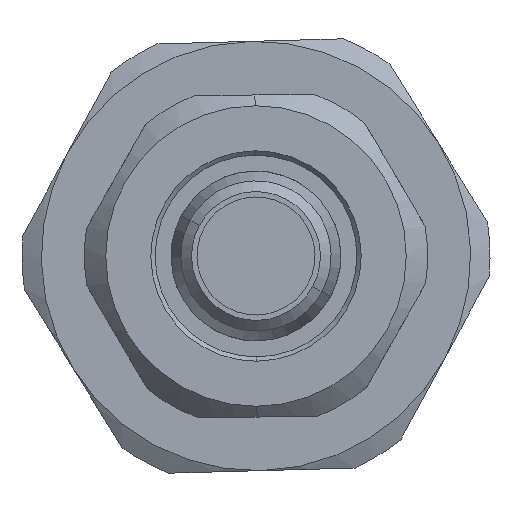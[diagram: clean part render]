
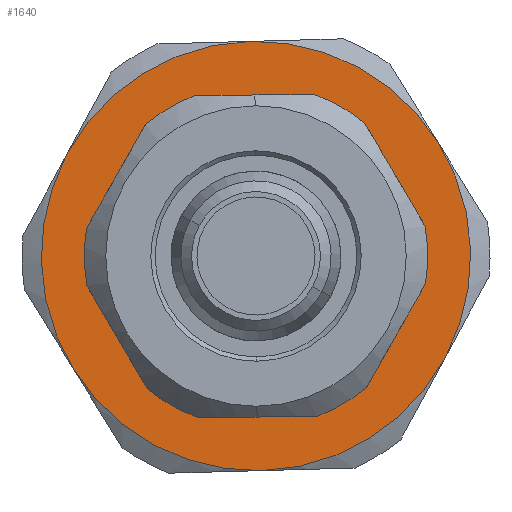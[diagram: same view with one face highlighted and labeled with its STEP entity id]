
A CAD part, left-side view. The second image highlights one B-rep face of the part: STEP entity #1640.
In plain terms, the highlighted planar face has unit normal (-1, 0, 0) as drawn and (1, 0, 0) by its records, which use the part's own axes.
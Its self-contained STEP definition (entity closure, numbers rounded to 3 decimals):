
#3 = CARTESIAN_POINT ( 'NONE',  ( 10., 0., 0. ) ) ;
#14 = DIRECTION ( 'NONE',  ( -1., 0., 0. ) ) ;
#22 = DIRECTION ( 'NONE',  ( 0., 0., 1. ) ) ;
#26 = DIRECTION ( 'NONE',  ( -1., 0., 0. ) ) ;
#35 = DIRECTION ( 'NONE',  ( 0., 0., 1. ) ) ;
#40 = CARTESIAN_POINT ( 'NONE',  ( 10., 0., 0. ) ) ;
#307 = CARTESIAN_POINT ( 'NONE',  ( 10., 0., 0. ) ) ;
#354 = DIRECTION ( 'NONE',  ( 0., 0., 1. ) ) ;
#362 = DIRECTION ( 'NONE',  ( -1., 0., 0. ) ) ;
#534 = EDGE_CURVE ( 'NONE', #1338, #1297, #3443, .T. ) ;
#720 = EDGE_CURVE ( 'NONE', #2014, #2472, #3775, .T. ) ;
#739 = EDGE_CURVE ( 'NONE', #1986, #2014, #3763, .T. ) ;
#741 = EDGE_CURVE ( 'NONE', #1297, #1338, #3884, .T. ) ;
#1297 = VERTEX_POINT ( 'NONE', #5441 ) ;
#1312 = ORIENTED_EDGE ( 'NONE', *, *, #1779, .F. ) ;
#1338 = VERTEX_POINT ( 'NONE', #5418 ) ;
#1348 = ORIENTED_EDGE ( 'NONE', *, *, #1800, .F. ) ;
#1349 = ORIENTED_EDGE ( 'NONE', *, *, #720, .F. ) ;
#1354 = ORIENTED_EDGE ( 'NONE', *, *, #1803, .F. ) ;
#1357 = ORIENTED_EDGE ( 'NONE', *, *, #1791, .F. ) ;
#1366 = ORIENTED_EDGE ( 'NONE', *, *, #741, .T. ) ;
#1395 = ORIENTED_EDGE ( 'NONE', *, *, #534, .T. ) ;
#1398 = ORIENTED_EDGE ( 'NONE', *, *, #739, .F. ) ;
#1640 = ADVANCED_FACE ( 'NONE', ( #4244, #4292 ), #5729, .T. ) ;
#1779 = EDGE_CURVE ( 'NONE', #2535, #2538, #5963, .T. ) ;
#1791 = EDGE_CURVE ( 'NONE', #2538, #1986, #6006, .T. ) ;
#1800 = EDGE_CURVE ( 'NONE', #2472, #2471, #6044, .T. ) ;
#1803 = EDGE_CURVE ( 'NONE', #2471, #2535, #6052, .T. ) ;
#1911 = AXIS2_PLACEMENT_3D ( 'NONE', #2720, #2748, #2751 ) ;
#1986 = VERTEX_POINT ( 'NONE', #6890 ) ;
#2014 = VERTEX_POINT ( 'NONE', #6997 ) ;
#2418 = EDGE_LOOP ( 'NONE', ( #1366, #1395 ) ) ;
#2440 = EDGE_LOOP ( 'NONE', ( #1312, #1354, #1348, #1349, #1398, #1357 ) ) ;
#2471 = VERTEX_POINT ( 'NONE', #6980 ) ;
#2472 = VERTEX_POINT ( 'NONE', #6977 ) ;
#2535 = VERTEX_POINT ( 'NONE', #6986 ) ;
#2538 = VERTEX_POINT ( 'NONE', #7002 ) ;
#2720 = CARTESIAN_POINT ( 'NONE',  ( 10., 0., 0. ) ) ;
#2748 = DIRECTION ( 'NONE',  ( -1., 0., 0. ) ) ;
#2751 = DIRECTION ( 'NONE',  ( 0., 0., 1. ) ) ;
#3443 = CIRCLE ( 'NONE', #1911, 5.4 ) ;
#3763 = CIRCLE ( 'NONE', #4519, 10. ) ;
#3775 = CIRCLE ( 'NONE', #4516, 10. ) ;
#3884 = CIRCLE ( 'NONE', #4526, 5.4 ) ;
#4244 = FACE_BOUND ( 'NONE', #2418, .T. ) ;
#4292 = FACE_OUTER_BOUND ( 'NONE', #2440, .T. ) ;
#4350 = AXIS2_PLACEMENT_3D ( 'NONE', #6472, #6532, #6523 ) ;
#4388 = AXIS2_PLACEMENT_3D ( 'NONE', #6542, #6520, #6527 ) ;
#4516 = AXIS2_PLACEMENT_3D ( 'NONE', #307, #362, #354 ) ;
#4519 = AXIS2_PLACEMENT_3D ( 'NONE', #40, #26, #22 ) ;
#4526 = AXIS2_PLACEMENT_3D ( 'NONE', #3, #14, #35 ) ;
#4749 = AXIS2_PLACEMENT_3D ( 'NONE', #5705, #5707, #5714 ) ;
#4770 = AXIS2_PLACEMENT_3D ( 'NONE', #6442, #6451, #6460 ) ;
#4776 = AXIS2_PLACEMENT_3D ( 'NONE', #6490, #6473, #6481 ) ;
#5418 = CARTESIAN_POINT ( 'NONE',  ( 10., 0., -5.4 ) ) ;
#5441 = CARTESIAN_POINT ( 'NONE',  ( 10., 0., 5.4 ) ) ;
#5705 = CARTESIAN_POINT ( 'NONE',  ( 10., 0., 0. ) ) ;
#5707 = DIRECTION ( 'NONE',  ( 1., 0., 0. ) ) ;
#5714 = DIRECTION ( 'NONE',  ( 0., 0., -1. ) ) ;
#5729 = PLANE ( 'NONE',  #4749 ) ;
#5963 = CIRCLE ( 'NONE', #4770, 10. ) ;
#6006 = CIRCLE ( 'NONE', #4776, 10. ) ;
#6044 = CIRCLE ( 'NONE', #4350, 10. ) ;
#6052 = CIRCLE ( 'NONE', #4388, 10. ) ;
#6442 = CARTESIAN_POINT ( 'NONE',  ( 10., 0., 0. ) ) ;
#6451 = DIRECTION ( 'NONE',  ( -1., 0., 0. ) ) ;
#6460 = DIRECTION ( 'NONE',  ( 0., 0., 1. ) ) ;
#6472 = CARTESIAN_POINT ( 'NONE',  ( 10., 0., 0. ) ) ;
#6473 = DIRECTION ( 'NONE',  ( -1., 0., 0. ) ) ;
#6481 = DIRECTION ( 'NONE',  ( 0., 0., 1. ) ) ;
#6490 = CARTESIAN_POINT ( 'NONE',  ( 10., 0., 0. ) ) ;
#6520 = DIRECTION ( 'NONE',  ( -1., 0., 0. ) ) ;
#6523 = DIRECTION ( 'NONE',  ( 0., 0., 1. ) ) ;
#6527 = DIRECTION ( 'NONE',  ( 0., 0., 1. ) ) ;
#6532 = DIRECTION ( 'NONE',  ( -1., 0., 0. ) ) ;
#6542 = CARTESIAN_POINT ( 'NONE',  ( 10., 0., 0. ) ) ;
#6890 = CARTESIAN_POINT ( 'NONE',  ( 10., 8.66, -5. ) ) ;
#6977 = CARTESIAN_POINT ( 'NONE',  ( 10., -8.66, -5. ) ) ;
#6980 = CARTESIAN_POINT ( 'NONE',  ( 10., -8.66, 5. ) ) ;
#6986 = CARTESIAN_POINT ( 'NONE',  ( 10., 0., 10. ) ) ;
#6997 = CARTESIAN_POINT ( 'NONE',  ( 10., 0., -10. ) ) ;
#7002 = CARTESIAN_POINT ( 'NONE',  ( 10., 8.66, 5. ) ) ;
